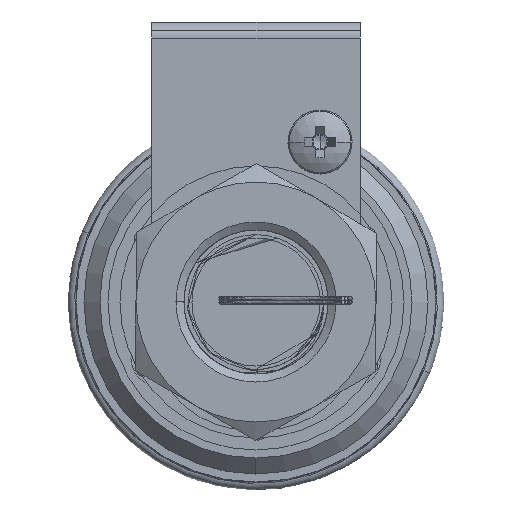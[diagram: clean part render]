
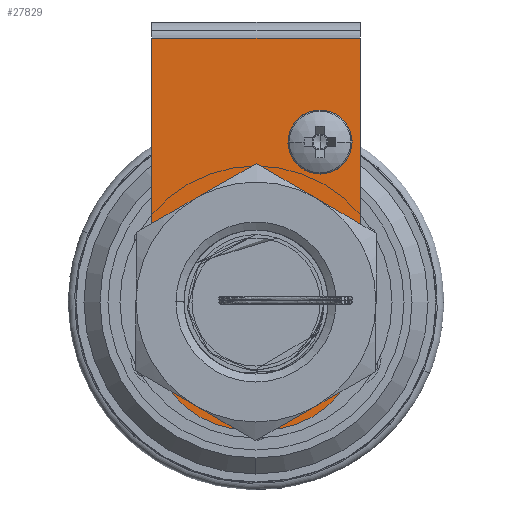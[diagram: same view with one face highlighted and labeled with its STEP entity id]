
A CAD part, front view. The second image highlights one B-rep face of the part: STEP entity #27829.
In plain terms, the highlighted planar face has unit normal (0, -1, 0).
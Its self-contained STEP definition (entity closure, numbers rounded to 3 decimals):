
#156 = CIRCLE ( 'NONE', #14812, 12. ) ;
#159 = AXIS2_PLACEMENT_3D ( 'NONE', #26680, #23954, #10479 ) ;
#908 = CIRCLE ( 'NONE', #28940, 9. ) ;
#989 = CARTESIAN_POINT ( 'NONE',  ( 21., -1., -14. ) ) ;
#1228 = DIRECTION ( 'NONE',  ( 0., 0., -1. ) ) ;
#1365 = CIRCLE ( 'NONE', #27488, 2.25 ) ;
#1745 = DIRECTION ( 'NONE',  ( 0., -1., 0. ) ) ;
#2437 = LINE ( 'NONE', #9817, #13449 ) ;
#2619 = DIRECTION ( 'NONE',  ( 0., -1., 0. ) ) ;
#2648 = EDGE_CURVE ( 'NONE', #18595, #29053, #2437, .T. ) ;
#3126 = EDGE_LOOP ( 'NONE', ( #22184, #34737 ) ) ;
#3582 = CARTESIAN_POINT ( 'NONE',  ( 13., -1., -25. ) ) ;
#3998 = ORIENTED_EDGE ( 'NONE', *, *, #32957, .T. ) ;
#4135 = CARTESIAN_POINT ( 'NONE',  ( 13., -1., -34. ) ) ;
#4215 = ORIENTED_EDGE ( 'NONE', *, *, #22072, .T. ) ;
#4280 = DIRECTION ( 'NONE',  ( 0., 1., 0. ) ) ;
#4963 = EDGE_LOOP ( 'NONE', ( #28916, #4215, #19676, #17740, #30489, #3998 ) ) ;
#5447 = CARTESIAN_POINT ( 'NONE',  ( 14., -1., -38. ) ) ;
#5598 = DIRECTION ( 'NONE',  ( 0., 0., 1. ) ) ;
#6588 = DIRECTION ( 'NONE',  ( 0., -1., 0. ) ) ;
#6692 = DIRECTION ( 'NONE',  ( 0., 0., -1. ) ) ;
#6830 = EDGE_LOOP ( 'NONE', ( #12907, #12784 ) ) ;
#7034 = CARTESIAN_POINT ( 'NONE',  ( 26., -1., 0. ) ) ;
#7127 = DIRECTION ( 'NONE',  ( 0., 0., -1. ) ) ;
#8153 = VERTEX_POINT ( 'NONE', #12846 ) ;
#8201 = CARTESIAN_POINT ( 'NONE',  ( 12., -1., -50. ) ) ;
#9026 = VERTEX_POINT ( 'NONE', #8201 ) ;
#9271 = CARTESIAN_POINT ( 'NONE',  ( 0., -1., 0. ) ) ;
#9370 = VECTOR ( 'NONE', #25368, 1000. ) ;
#9817 = CARTESIAN_POINT ( 'NONE',  ( 26., -1., 0. ) ) ;
#10479 = DIRECTION ( 'NONE',  ( 0., 0., -1. ) ) ;
#11502 = CARTESIAN_POINT ( 'NONE',  ( 0., -1., -38. ) ) ;
#12784 = ORIENTED_EDGE ( 'NONE', *, *, #32296, .F. ) ;
#12846 = CARTESIAN_POINT ( 'NONE',  ( 13., -1., -43. ) ) ;
#12907 = ORIENTED_EDGE ( 'NONE', *, *, #18901, .F. ) ;
#12914 = VERTEX_POINT ( 'NONE', #27673 ) ;
#13054 = AXIS2_PLACEMENT_3D ( 'NONE', #33681, #6588, #31204 ) ;
#13449 = VECTOR ( 'NONE', #7127, 1000. ) ;
#13785 = EDGE_CURVE ( 'NONE', #18956, #27789, #1365, .T. ) ;
#14329 = CIRCLE ( 'NONE', #21535, 12. ) ;
#14798 = DIRECTION ( 'NONE',  ( -1., 0., 0. ) ) ;
#14812 = AXIS2_PLACEMENT_3D ( 'NONE', #5447, #15844, #29718 ) ;
#15209 = LINE ( 'NONE', #9271, #15648 ) ;
#15354 = EDGE_CURVE ( 'NONE', #12914, #22152, #15209, .T. ) ;
#15648 = VECTOR ( 'NONE', #6692, 1000. ) ;
#15844 = DIRECTION ( 'NONE',  ( 0., -1., 0. ) ) ;
#16085 = CARTESIAN_POINT ( 'NONE',  ( 12., -1., -38. ) ) ;
#16787 = CIRCLE ( 'NONE', #159, 2.25 ) ;
#17306 = EDGE_CURVE ( 'NONE', #20543, #9026, #32067, .T. ) ;
#17740 = ORIENTED_EDGE ( 'NONE', *, *, #25265, .T. ) ;
#17781 = CARTESIAN_POINT ( 'NONE',  ( 14., -1., -50. ) ) ;
#17858 = PLANE ( 'NONE',  #27950 ) ;
#18502 = EDGE_CURVE ( 'NONE', #27789, #18956, #16787, .T. ) ;
#18595 = VERTEX_POINT ( 'NONE', #19068 ) ;
#18901 = EDGE_CURVE ( 'NONE', #8153, #22158, #32041, .T. ) ;
#18956 = VERTEX_POINT ( 'NONE', #33911 ) ;
#19068 = CARTESIAN_POINT ( 'NONE',  ( 26., -1., -1. ) ) ;
#19676 = ORIENTED_EDGE ( 'NONE', *, *, #17306, .F. ) ;
#20543 = VERTEX_POINT ( 'NONE', #17781 ) ;
#20732 = CARTESIAN_POINT ( 'NONE',  ( 26., -1., -38. ) ) ;
#21535 = AXIS2_PLACEMENT_3D ( 'NONE', #16085, #2619, #5598 ) ;
#21563 = FACE_OUTER_BOUND ( 'NONE', #4963, .T. ) ;
#22072 = EDGE_CURVE ( 'NONE', #22152, #9026, #14329, .T. ) ;
#22152 = VERTEX_POINT ( 'NONE', #11502 ) ;
#22158 = VERTEX_POINT ( 'NONE', #3582 ) ;
#22184 = ORIENTED_EDGE ( 'NONE', *, *, #13785, .F. ) ;
#23571 = VECTOR ( 'NONE', #14798, 1000. ) ;
#23954 = DIRECTION ( 'NONE',  ( 0., -1., 0. ) ) ;
#25265 = EDGE_CURVE ( 'NONE', #20543, #29053, #156, .T. ) ;
#25368 = DIRECTION ( 'NONE',  ( -1., 0., 0. ) ) ;
#26065 = CARTESIAN_POINT ( 'NONE',  ( 26., -1., -50. ) ) ;
#26680 = CARTESIAN_POINT ( 'NONE',  ( 21., -1., -14. ) ) ;
#26695 = FACE_BOUND ( 'NONE', #6830, .T. ) ;
#27488 = AXIS2_PLACEMENT_3D ( 'NONE', #989, #30961, #1228 ) ;
#27673 = CARTESIAN_POINT ( 'NONE',  ( 0., -1., -1. ) ) ;
#27789 = VERTEX_POINT ( 'NONE', #31411 ) ;
#27829 = ADVANCED_FACE ( 'NONE', ( #34785, #26695, #21563 ), #17858, .F. ) ;
#27950 = AXIS2_PLACEMENT_3D ( 'NONE', #7034, #4280, #33783 ) ;
#28734 = DIRECTION ( 'NONE',  ( 0., 0., -1. ) ) ;
#28916 = ORIENTED_EDGE ( 'NONE', *, *, #15354, .T. ) ;
#28940 = AXIS2_PLACEMENT_3D ( 'NONE', #4135, #1745, #28734 ) ;
#29053 = VERTEX_POINT ( 'NONE', #20732 ) ;
#29718 = DIRECTION ( 'NONE',  ( 0., 0., 1. ) ) ;
#30489 = ORIENTED_EDGE ( 'NONE', *, *, #2648, .F. ) ;
#30961 = DIRECTION ( 'NONE',  ( 0., -1., 0. ) ) ;
#31204 = DIRECTION ( 'NONE',  ( 0., 0., -1. ) ) ;
#31411 = CARTESIAN_POINT ( 'NONE',  ( 21., -1., -11.75 ) ) ;
#32041 = CIRCLE ( 'NONE', #13054, 9. ) ;
#32067 = LINE ( 'NONE', #26065, #23571 ) ;
#32296 = EDGE_CURVE ( 'NONE', #22158, #8153, #908, .T. ) ;
#32957 = EDGE_CURVE ( 'NONE', #18595, #12914, #33110, .T. ) ;
#33110 = LINE ( 'NONE', #33460, #9370 ) ;
#33460 = CARTESIAN_POINT ( 'NONE',  ( 26., -1., -1. ) ) ;
#33681 = CARTESIAN_POINT ( 'NONE',  ( 13., -1., -34. ) ) ;
#33783 = DIRECTION ( 'NONE',  ( 0., 0., 1. ) ) ;
#33911 = CARTESIAN_POINT ( 'NONE',  ( 21., -1., -16.25 ) ) ;
#34737 = ORIENTED_EDGE ( 'NONE', *, *, #18502, .F. ) ;
#34785 = FACE_BOUND ( 'NONE', #3126, .T. ) ;
